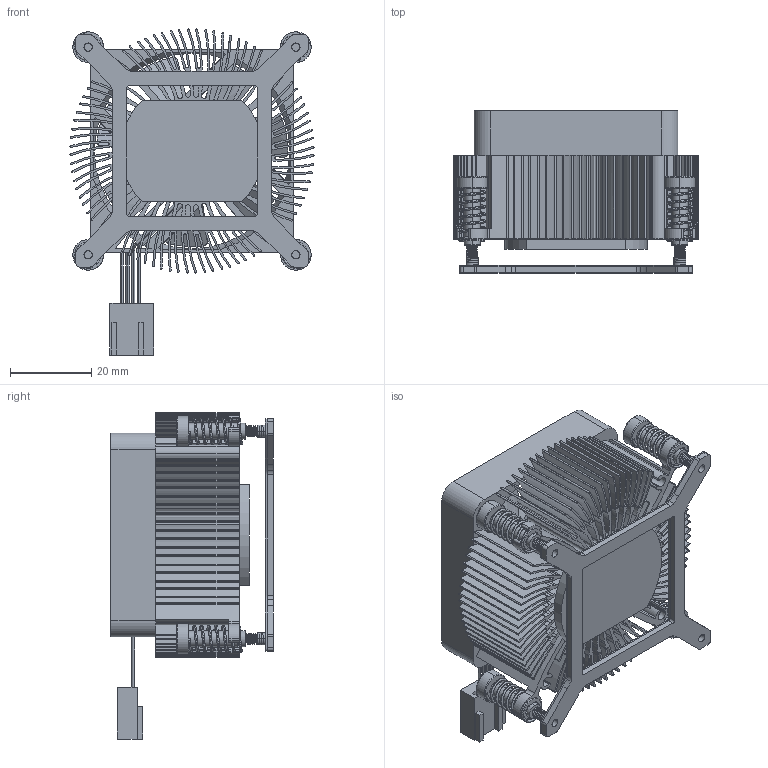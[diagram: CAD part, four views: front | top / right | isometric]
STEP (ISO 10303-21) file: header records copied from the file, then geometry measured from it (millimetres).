
FILE_DESCRIPTION((''),'2;1');
FILE_NAME('E2301A17A_HEATSINK0001_ASM','2023-07-05T16:18:32',('jamie_liao'),(''),'CREO PARAMETRIC BY PTC INC, 2022284','CREO PARAMETRIC BY PTC INC, 2022284','');
FILE_SCHEMA(('CONFIG_CONTROL_DESIGN','GEOMETRIC_VALIDATION_PROPERTIES_MIM'));
Products named in the file (24): SCREW-M2_5; E-RING_D2_5; SPRING-M2_5; SCREW_SPRING_M2_5_ASM; M3_SCREW_12_9_1_1_1; 2510P; C26_CU_BLOCK_1_2_4; FILLET1_1_1_1_1; CIRPATTERN1_5__1_1_1_1; _2_2_0001; _2_1_0001; NONE; HOUSING_1_1_ASM; CIRPATTERN1_2__1_1_1_1; CIRPATTERN1_1__1_1_1_1; CIRPATTERN1_3__1_1_1_1; CIRPATTERN1_6__1_1_1_1; CIRPATTERN1_4__1_1_1_1; C24_FAN_5010_ASM_1_ASM_ASM_1_AS_ASM; MYLAR; PM51X51-M2_5X3_8L0001; PM51X51-M2_5X3_8L_0001_ASM; SUNFLOWER; E2301A17A_HEATSINK0001_ASM
Assembly tree (29 placements, depth 4):
  E2301A17A_HEATSINK0001_ASM
    SCREW_SPRING_M2_5_ASM  x4
      SCREW-M2_5
      E-RING_D2_5
      SPRING-M2_5
    M3_SCREW_12_9_1_1_1  x4
    2510P
    C26_CU_BLOCK_1_2_4
    C24_FAN_5010_ASM_1_ASM_ASM_1_AS_ASM
      FILLET1_1_1_1_1
      CIRPATTERN1_5__1_1_1_1
      HOUSING_1_1_ASM
        _2_2_0001
        _2_1_0001
        NONE
      CIRPATTERN1_2__1_1_1_1
      CIRPATTERN1_1__1_1_1_1
      CIRPATTERN1_3__1_1_1_1
      CIRPATTERN1_6__1_1_1_1
      CIRPATTERN1_4__1_1_1_1
    PM51X51-M2_5X3_8L_0001_ASM
      MYLAR
      PM51X51-M2_5X3_8L0001
    SUNFLOWER
Bounding box: 59.97 x 39.85 x 80.12 mm (x, y, z)
Volume: 57223 mm3; surface area: 78757.7 mm2
Topology: 31 solids, 33 shells, 1938 faces, 5926 edges, 4098 vertices
Faces by surface type: cylinder 1404, plane 381, bspline 101, torus 40, cone 12
Entity records: 60280 total; most frequent: CARTESIAN_POINT 18619, DIRECTION 9072, ORIENTED_EDGE 8612, EDGE_CURVE 4306, AXIS2_PLACEMENT_3D 3732, VERTEX_POINT 2961, CIRCLE 2294, VECTOR 1608
